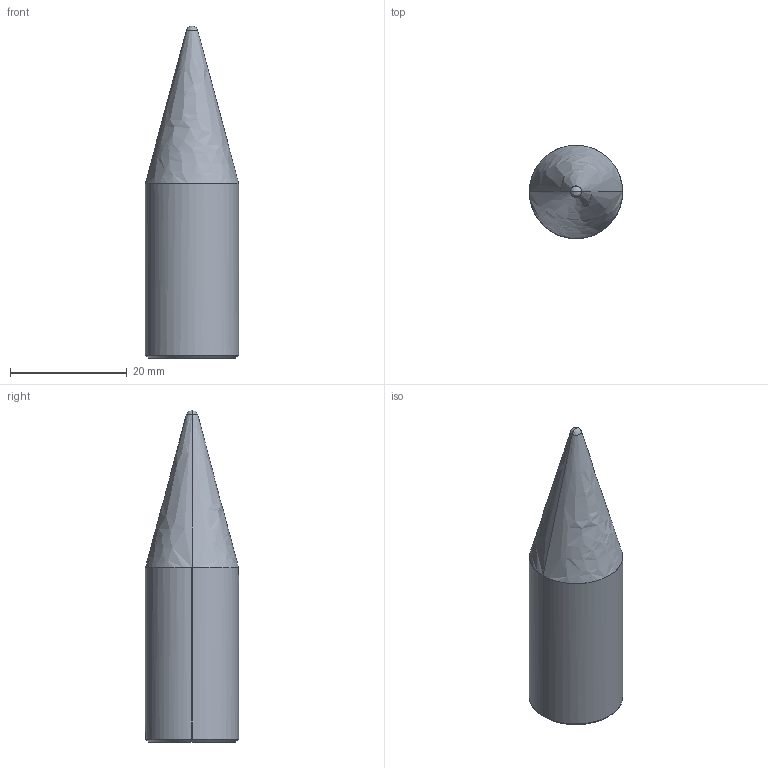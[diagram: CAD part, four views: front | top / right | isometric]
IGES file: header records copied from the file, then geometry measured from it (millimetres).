
Global section: file name: E:\UnigraphicsGraphicData\MISUMI_PRESS-PARTS\IGES\3d_snst16-b30_03113_r00.igs; native system: NX V5.0; preprocessor: UGS NX IGES V5.0; author: MISUMI; date: 20110105.162852; units: millimetre
Bounding box: 16 x 15.97 x 56.99 mm (x, y, z)
Surface area: 2690.9 mm2 (no closed solid volume)
Topology: 0 solids, 0 shells, 12 faces, 64 edges, 62 vertices
Faces by surface type: bspline 12
